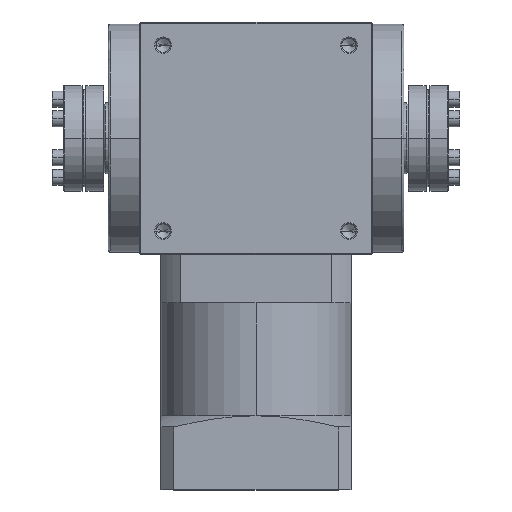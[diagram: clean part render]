
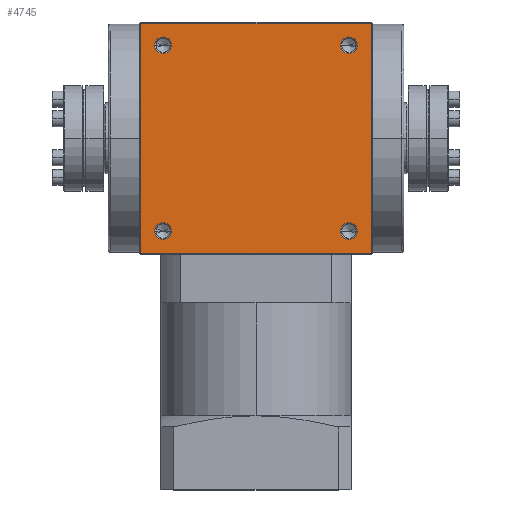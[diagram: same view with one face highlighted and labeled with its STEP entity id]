
A CAD part, top view. The second image highlights one B-rep face of the part: STEP entity #4745.
In plain terms, the highlighted planar face has unit normal (0, 0, 1).
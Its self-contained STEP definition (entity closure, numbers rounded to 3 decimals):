
#47 = AXIS2_PLACEMENT_3D ( 'NONE', #13596, #13613, #13634 ) ;
#645 = AXIS2_PLACEMENT_3D ( 'NONE', #2937, #12761, #4321 ) ;
#760 = VERTEX_POINT ( 'NONE', #4389 ) ;
#808 = ORIENTED_EDGE ( 'NONE', *, *, #18043, .F. ) ;
#959 = VERTEX_POINT ( 'NONE', #6388 ) ;
#1072 = EDGE_LOOP ( 'NONE', ( #1548, #11146 ) ) ;
#1220 = CARTESIAN_POINT ( 'NONE',  ( 0., -54.5, 55. ) ) ;
#1225 = CARTESIAN_POINT ( 'NONE',  ( 44., 44., 55. ) ) ;
#1446 = AXIS2_PLACEMENT_3D ( 'NONE', #8362, #12599, #12665 ) ;
#1548 = ORIENTED_EDGE ( 'NONE', *, *, #16595, .F. ) ;
#1597 = EDGE_CURVE ( 'NONE', #959, #8144, #17001, .T. ) ;
#1788 = LINE ( 'NONE', #10563, #8677 ) ;
#1882 = CARTESIAN_POINT ( 'NONE',  ( -44., 44., 55. ) ) ;
#1996 = ORIENTED_EDGE ( 'NONE', *, *, #8235, .F. ) ;
#2005 = CARTESIAN_POINT ( 'NONE',  ( 44., -47.9, 55. ) ) ;
#2077 = LINE ( 'NONE', #16867, #8982 ) ;
#2223 = DIRECTION ( 'NONE',  ( 1., 0., 0. ) ) ;
#2233 = DIRECTION ( 'NONE',  ( 0., -1., 0. ) ) ;
#2316 = FACE_BOUND ( 'NONE', #1072, .T. ) ;
#2611 = DIRECTION ( 'NONE',  ( 0., -1., 0. ) ) ;
#2667 = CARTESIAN_POINT ( 'NONE',  ( 44., 44., 55. ) ) ;
#2738 = VERTEX_POINT ( 'NONE', #13457 ) ;
#2937 = CARTESIAN_POINT ( 'NONE',  ( -44., -44., 55. ) ) ;
#3291 = DIRECTION ( 'NONE',  ( 0., -1., 0. ) ) ;
#4044 = DIRECTION ( 'NONE',  ( 0., -1., 0. ) ) ;
#4321 = DIRECTION ( 'NONE',  ( 0., -1., 0. ) ) ;
#4389 = CARTESIAN_POINT ( 'NONE',  ( 44., 40.1, 55. ) ) ;
#4530 = VERTEX_POINT ( 'NONE', #6383 ) ;
#4573 = EDGE_CURVE ( 'NONE', #14645, #17613, #8552, .T. ) ;
#4580 = CARTESIAN_POINT ( 'NONE',  ( 54.5, -54.5, 55. ) ) ;
#4673 = EDGE_LOOP ( 'NONE', ( #13144, #16440 ) ) ;
#4745 = ADVANCED_FACE ( 'NONE', ( #17449, #2316, #13537, #16991, #13062 ), #12536, .F. ) ;
#5691 = CARTESIAN_POINT ( 'NONE',  ( 44., -44., 55. ) ) ;
#5786 = CARTESIAN_POINT ( 'NONE',  ( -44., -40.1, 55. ) ) ;
#5870 = EDGE_CURVE ( 'NONE', #15013, #10895, #8081, .T. ) ;
#6383 = CARTESIAN_POINT ( 'NONE',  ( -44., 47.9, 55. ) ) ;
#6388 = CARTESIAN_POINT ( 'NONE',  ( -44., -47.9, 55. ) ) ;
#6454 = ORIENTED_EDGE ( 'NONE', *, *, #1597, .F. ) ;
#6976 = EDGE_LOOP ( 'NONE', ( #6454, #7918 ) ) ;
#7033 = DIRECTION ( 'NONE',  ( 0., -1., 0. ) ) ;
#7345 = DIRECTION ( 'NONE',  ( 0., 0., 1. ) ) ;
#7399 = ORIENTED_EDGE ( 'NONE', *, *, #16043, .F. ) ;
#7584 = EDGE_CURVE ( 'NONE', #17613, #14645, #16473, .T. ) ;
#7918 = ORIENTED_EDGE ( 'NONE', *, *, #15740, .F. ) ;
#7958 = CARTESIAN_POINT ( 'NONE',  ( 44., -40.1, 55. ) ) ;
#8081 = LINE ( 'NONE', #1220, #11897 ) ;
#8144 = VERTEX_POINT ( 'NONE', #5786 ) ;
#8235 = EDGE_CURVE ( 'NONE', #15645, #4530, #16212, .T. ) ;
#8362 = CARTESIAN_POINT ( 'NONE',  ( 54.5, -54.5, 55. ) ) ;
#8484 = AXIS2_PLACEMENT_3D ( 'NONE', #2667, #12474, #4044 ) ;
#8552 = CIRCLE ( 'NONE', #18362, 3.9 ) ;
#8677 = VECTOR ( 'NONE', #2223, 1000. ) ;
#8970 = VERTEX_POINT ( 'NONE', #12026 ) ;
#8982 = VECTOR ( 'NONE', #12512, 1000. ) ;
#9029 = CIRCLE ( 'NONE', #17665, 3.9 ) ;
#9091 = ORIENTED_EDGE ( 'NONE', *, *, #5870, .T. ) ;
#9480 = DIRECTION ( 'NONE',  ( 1., 0., 0. ) ) ;
#9849 = EDGE_LOOP ( 'NONE', ( #9091, #7399, #10539, #11850 ) ) ;
#10299 = EDGE_LOOP ( 'NONE', ( #1996, #808 ) ) ;
#10539 = ORIENTED_EDGE ( 'NONE', *, *, #14544, .F. ) ;
#10563 = CARTESIAN_POINT ( 'NONE',  ( 0., 54.5, 55. ) ) ;
#10895 = VERTEX_POINT ( 'NONE', #4580 ) ;
#10956 = DIRECTION ( 'NONE',  ( 0., 0., 1. ) ) ;
#11146 = ORIENTED_EDGE ( 'NONE', *, *, #14992, .F. ) ;
#11665 = DIRECTION ( 'NONE',  ( 0., 0., 1. ) ) ;
#11713 = CARTESIAN_POINT ( 'NONE',  ( 44., -44., 55. ) ) ;
#11850 = ORIENTED_EDGE ( 'NONE', *, *, #12566, .F. ) ;
#11872 = CARTESIAN_POINT ( 'NONE',  ( -54.5, 54.5, 55. ) ) ;
#11897 = VECTOR ( 'NONE', #9480, 1000. ) ;
#12026 = CARTESIAN_POINT ( 'NONE',  ( 54.5, 54.5, 55. ) ) ;
#12051 = CARTESIAN_POINT ( 'NONE',  ( 54.5, 0., 55. ) ) ;
#12307 = VERTEX_POINT ( 'NONE', #11872 ) ;
#12408 = AXIS2_PLACEMENT_3D ( 'NONE', #1882, #11665, #3291 ) ;
#12474 = DIRECTION ( 'NONE',  ( 0., 0., 1. ) ) ;
#12512 = DIRECTION ( 'NONE',  ( 0., 1., 0. ) ) ;
#12536 = PLANE ( 'NONE',  #1446 ) ;
#12566 = EDGE_CURVE ( 'NONE', #15013, #12307, #2077, .T. ) ;
#12599 = DIRECTION ( 'NONE',  ( 0., 0., -1. ) ) ;
#12665 = DIRECTION ( 'NONE',  ( -1., 0., 0. ) ) ;
#12761 = DIRECTION ( 'NONE',  ( 0., 0., 1. ) ) ;
#12874 = AXIS2_PLACEMENT_3D ( 'NONE', #5691, #15661, #7033 ) ;
#12939 = LINE ( 'NONE', #12051, #16372 ) ;
#13062 = FACE_OUTER_BOUND ( 'NONE', #9849, .T. ) ;
#13144 = ORIENTED_EDGE ( 'NONE', *, *, #7584, .F. ) ;
#13295 = AXIS2_PLACEMENT_3D ( 'NONE', #1225, #10956, #2611 ) ;
#13457 = CARTESIAN_POINT ( 'NONE',  ( 44., 47.9, 55. ) ) ;
#13537 = FACE_BOUND ( 'NONE', #6976, .T. ) ;
#13596 = CARTESIAN_POINT ( 'NONE',  ( -44., -44., 55. ) ) ;
#13613 = DIRECTION ( 'NONE',  ( 0., 0., 1. ) ) ;
#13634 = DIRECTION ( 'NONE',  ( 0., -1., 0. ) ) ;
#14544 = EDGE_CURVE ( 'NONE', #12307, #8970, #1788, .T. ) ;
#14645 = VERTEX_POINT ( 'NONE', #7958 ) ;
#14764 = CIRCLE ( 'NONE', #8484, 3.9 ) ;
#14977 = DIRECTION ( 'NONE',  ( 0., -1., 0. ) ) ;
#14992 = EDGE_CURVE ( 'NONE', #2738, #760, #15957, .T. ) ;
#15013 = VERTEX_POINT ( 'NONE', #16766 ) ;
#15645 = VERTEX_POINT ( 'NONE', #16933 ) ;
#15661 = DIRECTION ( 'NONE',  ( 0., 0., 1. ) ) ;
#15740 = EDGE_CURVE ( 'NONE', #8144, #959, #16627, .T. ) ;
#15957 = CIRCLE ( 'NONE', #13295, 3.9 ) ;
#15988 = CARTESIAN_POINT ( 'NONE',  ( -44., 44., 55. ) ) ;
#16043 = EDGE_CURVE ( 'NONE', #8970, #10895, #12939, .T. ) ;
#16212 = CIRCLE ( 'NONE', #12408, 3.9 ) ;
#16241 = DIRECTION ( 'NONE',  ( 0., 0., 1. ) ) ;
#16372 = VECTOR ( 'NONE', #14977, 1000. ) ;
#16440 = ORIENTED_EDGE ( 'NONE', *, *, #4573, .F. ) ;
#16473 = CIRCLE ( 'NONE', #12874, 3.9 ) ;
#16595 = EDGE_CURVE ( 'NONE', #760, #2738, #14764, .T. ) ;
#16627 = CIRCLE ( 'NONE', #645, 3.9 ) ;
#16766 = CARTESIAN_POINT ( 'NONE',  ( -54.5, -54.5, 55. ) ) ;
#16867 = CARTESIAN_POINT ( 'NONE',  ( -54.5, 0., 55. ) ) ;
#16933 = CARTESIAN_POINT ( 'NONE',  ( -44., 40.1, 55. ) ) ;
#16991 = FACE_BOUND ( 'NONE', #4673, .T. ) ;
#17001 = CIRCLE ( 'NONE', #47, 3.9 ) ;
#17449 = FACE_BOUND ( 'NONE', #10299, .T. ) ;
#17483 = DIRECTION ( 'NONE',  ( 0., -1., 0. ) ) ;
#17613 = VERTEX_POINT ( 'NONE', #2005 ) ;
#17665 = AXIS2_PLACEMENT_3D ( 'NONE', #15988, #7345, #17483 ) ;
#18043 = EDGE_CURVE ( 'NONE', #4530, #15645, #9029, .T. ) ;
#18362 = AXIS2_PLACEMENT_3D ( 'NONE', #11713, #16241, #2233 ) ;
